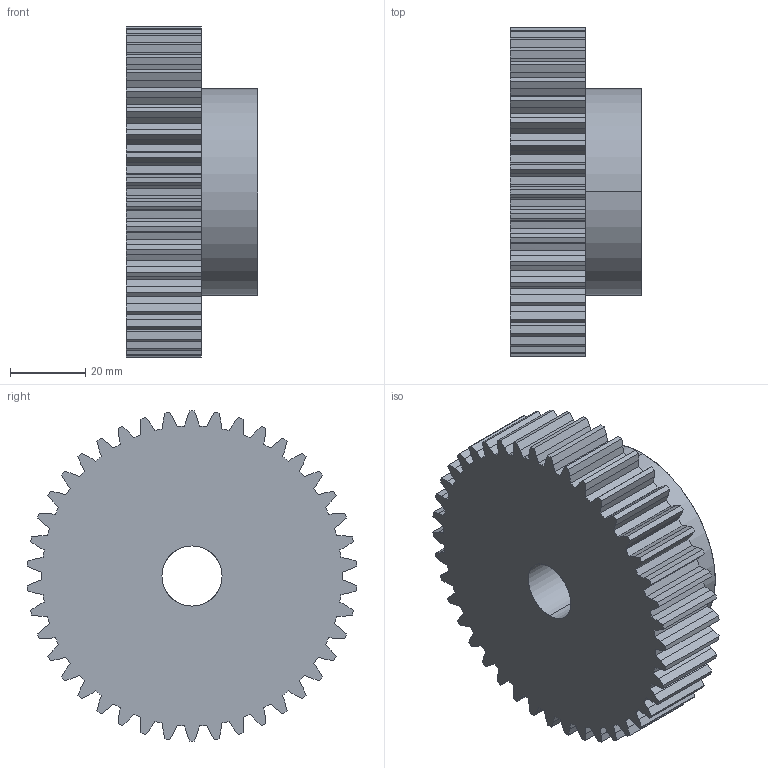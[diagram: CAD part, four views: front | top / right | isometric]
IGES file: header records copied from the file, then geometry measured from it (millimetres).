
Start section: SolidWorks IGES file using analytic representation for surfaces
Global section: file name: C:\Users\Honza\Desktop\Matis (Hotove)\Èelní ozubená kola\PM\MODUL 2\PM 28042.IGS; native system: SolidWorks 2010; preprocessor: SolidWorks 2010; author: Honza; date: 130925.104229; units: millimetre
Bounding box: 35 x 87.84 x 88 mm (x, y, z)
Surface area: 24880.9 mm2 (no closed solid volume)
Topology: 0 solids, 0 shells, 259 faces, 1746 edges, 1746 vertices
Faces by surface type: bspline 171, revolution 88
